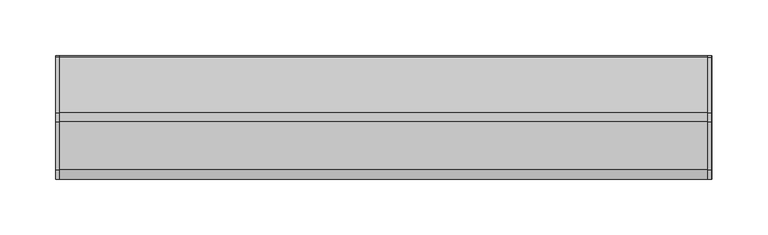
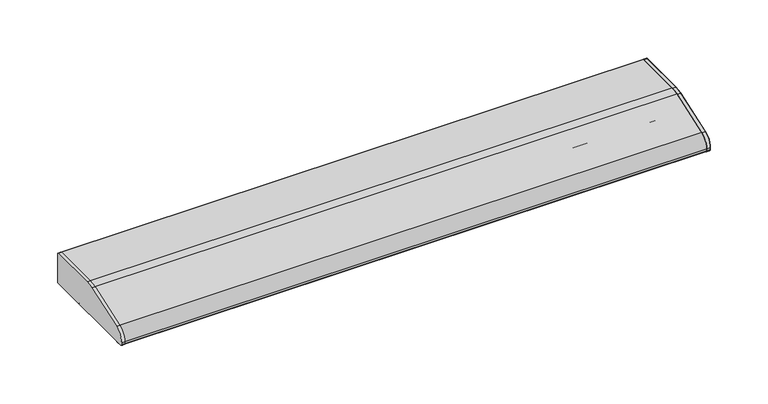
"""IFC4 building model written with IfcOpenShell, lengths in millimetres: light fixture geometry, HermanMiller_SupplementalProducts_G6136_UtilityTaskLight : AO Etho Canvas 30W."""

from ifc_helpers import new_model, si_unit, point, frame, frame_2d, origin, place, context, project, spatial, polyline, circle_curve, trimmed, segment, composite_curve, outline, extrude, source, transform, mapped, element, save


def light_fixture_b8a277cb(model_context):
    return source(origin(), model_context, "Body", "SweptSolid", [
        extrude(outline(composite_curve([segment(polyline([(53.975, 1295.4), (-53.975, 1295.4)]), True, "CONTINUOUS"), segment(trimmed(circle_curve(frame_2d((-53.975, 1296.9875)), 1.5875), [point((-53.975, 1295.4))], [point((-55.5625, 1296.9875))], False, "CARTESIAN"), True, "CONTINUOUS"), segment(polyline([(-55.5625, 1296.9875), (-55.5625, 1299.0285714)]), True, "CONTINUOUS"), segment(trimmed(circle_curve(frame_2d((-42.8625, 1299.0285714)), 12.7), [point((-55.5625, 1299.0285714))], [point((-46.9814189, 1311.0420849))], False, "CARTESIAN"), True, "CONTINUOUS"), segment(polyline([(-46.9814189, 1311.0420849), (-4.0045045, 1325.777027)]), True, "CONTINUOUS"), segment(trimmed(circle_curve(frame_2d((4.2333333, 1301.75)), 25.4), [point((-4.0045045, 1325.777027))], [point((4.2333333, 1327.15))], False, "CARTESIAN"), True, "CONTINUOUS"), segment(polyline([(4.2333333, 1327.15), (53.975, 1327.15)]), True, "CONTINUOUS"), segment(trimmed(circle_curve(frame_2d((53.975, 1325.5625)), 1.5875), [point((53.975, 1327.15))], [point((55.5625, 1325.5625))], False, "CARTESIAN"), True, "CONTINUOUS"), segment(polyline([(55.5625, 1325.5625), (55.5625, 1296.9875)]), True, "CONTINUOUS"), segment(trimmed(circle_curve(frame_2d((53.975, 1296.9875)), 1.5875), [point((55.5625, 1296.9875))], [point((53.975, 1295.4))], False, "CARTESIAN"), True, "CONTINUOUS")], self_intersect=False)), frame((291.846, 0.0, 0.0), z_axis=(1.0, 0.0, 0.0), x_axis=(0.0, 1.0, 0.0)), (0.0, 0.0, 1.0), 3.175),
        extrude(outline(composite_curve([segment(trimmed(circle_curve(frame_2d((53.975, 1325.5625)), 1.5875), [point((53.975, 1327.15))], [point((55.5625, 1325.5625))], False, "CARTESIAN"), True, "CONTINUOUS"), segment(polyline([(55.5625, 1325.5625), (55.5625, 1296.9875)]), True, "CONTINUOUS"), segment(trimmed(circle_curve(frame_2d((53.975, 1296.9875)), 1.5875), [point((55.5625, 1296.9875))], [point((53.975, 1295.4))], False, "CARTESIAN"), True, "CONTINUOUS"), segment(polyline([(53.975, 1295.4), (-53.975, 1295.4)]), True, "CONTINUOUS"), segment(trimmed(circle_curve(frame_2d((-53.975, 1296.9875)), 1.5875), [point((-53.975, 1295.4))], [point((-55.5625, 1296.9875))], False, "CARTESIAN"), True, "CONTINUOUS"), segment(polyline([(-55.5625, 1296.9875), (-55.5625, 1299.0285714)]), True, "CONTINUOUS"), segment(trimmed(circle_curve(frame_2d((-42.8625, 1299.0285714)), 12.7), [point((-55.5625, 1299.0285714))], [point((-46.9814189, 1311.0420849))], False, "CARTESIAN"), True, "CONTINUOUS"), segment(polyline([(-46.9814189, 1311.0420849), (-4.0045045, 1325.777027)]), True, "CONTINUOUS"), segment(trimmed(circle_curve(frame_2d((4.2333333, 1301.75)), 25.4), [point((-4.0045045, 1325.777027))], [point((4.2333333, 1327.15))], False, "CARTESIAN"), True, "CONTINUOUS"), segment(polyline([(4.2333333, 1327.15), (53.975, 1327.15)]), True, "CONTINUOUS")], self_intersect=False)), frame((-295.021, 0.0, 0.0), z_axis=(1.0, 0.0, 0.0), x_axis=(0.0, 1.0, 0.0)), (0.0, 0.0, 1.0), 3.175),
        extrude(outline(composite_curve([segment(polyline([(55.5625, 1325.5625), (55.5625, 1296.9875)]), True, "CONTINUOUS"), segment(trimmed(circle_curve(frame_2d((53.975, 1296.9875)), 1.5875), [point((55.5625, 1296.9875))], [point((53.975, 1295.4))], False, "CARTESIAN"), True, "CONTINUOUS"), segment(polyline([(53.975, 1295.4), (19.05, 1295.4)]), True, "CONTINUOUS"), segment(trimmed(circle_curve(frame_2d((19.05, 1296.9875)), 1.5875), [point((19.05, 1295.4))], [point((17.4625, 1296.9875))], False, "CARTESIAN"), True, "CONTINUOUS"), segment(polyline([(17.4625, 1296.9875), (17.4625, 1325.5625), (4.4979167, 1325.5625)]), True, "CONTINUOUS"), segment(trimmed(circle_curve(frame_2d((4.4979167, 1300.1625)), 25.4), [point((4.4979167, 1325.5625))], [point((-3.7399212, 1324.189527))], True, "CARTESIAN"), True, "CONTINUOUS"), segment(polyline([(-3.7399212, 1324.189527), (-37.4564189, 1312.6295849)]), True, "CONTINUOUS"), segment(trimmed(circle_curve(frame_2d((-33.3375, 1300.6160714)), 12.7), [point((-37.4564189, 1312.6295849))], [point((-46.0375, 1300.6160714))], True, "CARTESIAN"), True, "CONTINUOUS"), segment(polyline([(-46.0375, 1300.6160714), (-46.0375, 1296.9875)]), True, "CONTINUOUS"), segment(trimmed(circle_curve(frame_2d((-47.625, 1296.9875)), 1.5875), [point((-46.0375, 1296.9875))], [point((-47.625, 1295.4))], False, "CARTESIAN"), True, "CONTINUOUS"), segment(polyline([(-47.625, 1295.4), (-53.975, 1295.4)]), True, "CONTINUOUS"), segment(trimmed(circle_curve(frame_2d((-53.975, 1296.9875)), 1.5875), [point((-53.975, 1295.4))], [point((-55.5625, 1296.9875))], False, "CARTESIAN"), True, "CONTINUOUS"), segment(polyline([(-55.5625, 1296.9875), (-55.5625, 1299.0285714)]), True, "CONTINUOUS"), segment(trimmed(circle_curve(frame_2d((-42.8625, 1299.0285714)), 12.7), [point((-55.5625, 1299.0285714))], [point((-46.9814189, 1311.0420849))], False, "CARTESIAN"), True, "CONTINUOUS"), segment(polyline([(-46.9814189, 1311.0420849), (-4.0045045, 1325.777027)]), True, "CONTINUOUS"), segment(trimmed(circle_curve(frame_2d((4.2333333, 1301.75)), 25.4), [point((-4.0045045, 1325.777027))], [point((4.2333333, 1327.15))], False, "CARTESIAN"), True, "CONTINUOUS"), segment(polyline([(4.2333333, 1327.15), (53.975, 1327.15)]), True, "CONTINUOUS"), segment(trimmed(circle_curve(frame_2d((53.975, 1325.5625)), 1.5875), [point((53.975, 1327.15))], [point((55.5625, 1325.5625))], False, "CARTESIAN"), True, "CONTINUOUS")], self_intersect=False)), frame((-295.021, 0.0, 0.0), z_axis=(1.0, 0.0, 0.0), x_axis=(0.0, 1.0, 0.0)), (0.0, 0.0, 1.0), 590.5080011),
        extrude(outline(composite_curve([segment(trimmed(circle_curve(frame_2d((1.5875, 1312.8625)), 9.525), [point((-7.9375, 1312.8625))], [point((11.1125, 1312.8625))], False, "CARTESIAN"), True, "CONTINUOUS"), segment(trimmed(circle_curve(frame_2d((1.5875, 1312.8625)), 9.525), [point((11.1125, 1312.8625))], [point((-7.9375, 1312.8625))], False, "CARTESIAN"), True, "CONTINUOUS")], self_intersect=False)), frame((269.621, 0.0, 0.0), z_axis=(1.0, 0.0, 0.0), x_axis=(0.0, 1.0, 0.0)), (0.0, 0.0, 1.0), 12.7),
        extrude(outline(composite_curve([segment(trimmed(circle_curve(frame_2d((1.5875, 1312.8625)), 9.525), [point((-7.9375, 1312.8625))], [point((11.1125, 1312.8625))], False, "CARTESIAN"), True, "CONTINUOUS"), segment(trimmed(circle_curve(frame_2d((1.5875, 1312.8625)), 9.525), [point((11.1125, 1312.8625))], [point((-7.9375, 1312.8625))], False, "CARTESIAN"), True, "CONTINUOUS")], self_intersect=False)), frame((-282.321, 0.0, 0.0), z_axis=(1.0, 0.0, 0.0), x_axis=(0.0, 1.0, 0.0)), (0.0, 0.0, 1.0), 12.7),
        extrude(outline(composite_curve([segment(trimmed(circle_curve(frame_2d((1.5875, 1312.8625)), 9.525), [point((-7.9375, 1312.8625))], [point((11.1125, 1312.8625))], False, "CARTESIAN"), True, "CONTINUOUS"), segment(trimmed(circle_curve(frame_2d((1.5875, 1312.8625)), 9.525), [point((11.1125, 1312.8625))], [point((-7.9375, 1312.8625))], False, "CARTESIAN"), True, "CONTINUOUS")], self_intersect=False)), frame((-269.621, 0.0, 0.0), z_axis=(1.0, 0.0, 0.0), x_axis=(0.0, 1.0, 0.0)), (0.0, 0.0, 1.0), 539.242),
        extrude(outline(composite_curve([segment(polyline([(17.4625, 1298.575), (-46.0375, 1298.575), (-46.0375, 1300.6160714)]), True, "CONTINUOUS"), segment(trimmed(circle_curve(frame_2d((-33.3375, 1300.6160714)), 12.7), [point((-46.0375, 1300.6160714))], [point((-37.4564189, 1312.6295849))], False, "CARTESIAN"), True, "CONTINUOUS"), segment(polyline([(-37.4564189, 1312.6295849), (-3.7399212, 1324.189527)]), True, "CONTINUOUS"), segment(trimmed(circle_curve(frame_2d((4.4979167, 1300.1625)), 25.4), [point((-3.7399212, 1324.189527))], [point((4.4979167, 1325.5625))], False, "CARTESIAN"), True, "CONTINUOUS"), segment(polyline([(4.4979167, 1325.5625), (17.4625, 1325.5625), (17.4625, 1298.575)]), True, "CONTINUOUS")], self_intersect=False)), frame((282.321, 0.0, 0.0), z_axis=(1.0, 0.0, 0.0), x_axis=(0.0, 1.0, 0.0)), (0.0, 0.0, 1.0), 9.525),
        extrude(outline(composite_curve([segment(polyline([(17.4625, 1298.575), (-46.0375, 1298.575), (-46.0375, 1300.6160714)]), True, "CONTINUOUS"), segment(trimmed(circle_curve(frame_2d((-33.3375, 1300.6160714)), 12.7), [point((-46.0375, 1300.6160714))], [point((-37.4564189, 1312.6295849))], False, "CARTESIAN"), True, "CONTINUOUS"), segment(polyline([(-37.4564189, 1312.6295849), (-3.7399212, 1324.189527)]), True, "CONTINUOUS"), segment(trimmed(circle_curve(frame_2d((4.4979167, 1300.1625)), 25.4), [point((-3.7399212, 1324.189527))], [point((4.4979167, 1325.5625))], False, "CARTESIAN"), True, "CONTINUOUS"), segment(polyline([(4.4979167, 1325.5625), (17.4625, 1325.5625), (17.4625, 1298.575)]), True, "CONTINUOUS")], self_intersect=False)), frame((-291.846, 0.0, 0.0), z_axis=(1.0, 0.0, 0.0), x_axis=(0.0, 1.0, 0.0)), (0.0, 0.0, 1.0), 9.525),
    ])


if __name__ == "__main__":
    model = new_model("IFC4")
    model_context = context("Model", 3, world=origin())
    ifc_project = project(units=[si_unit("LENGTHUNIT", "METRE", prefix="MILLI")], contexts=[model_context])
    site = spatial("IfcSite", under=ifc_project)
    building = spatial("IfcBuilding", under=site)
    placement = place(None, origin())
    light_fixture_shape = light_fixture_b8a277cb(model_context)
    element("IfcLightFixture", 1, ObjectType="HermanMiller_SupplementalProducts_G6136_UtilityTaskLight : AO Etho Canvas 30W", at=placement, inside=building, context=model_context, shape_type="MappedRepresentation", body=[
        mapped(light_fixture_shape, transform((0.0, 0.0, 0.0), x_axis=(1.0, 0.0, 0.0), y_axis=(0.0, 1.0, 0.0), z_axis=(0.0, 0.0, 1.0))),
    ])
    save(model, "model.ifc")
